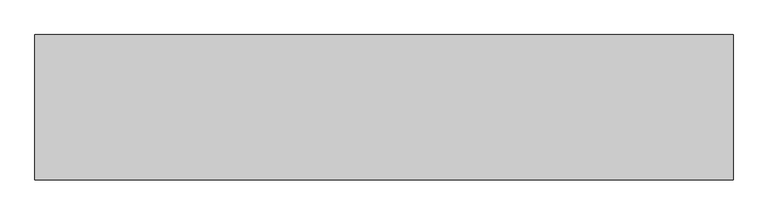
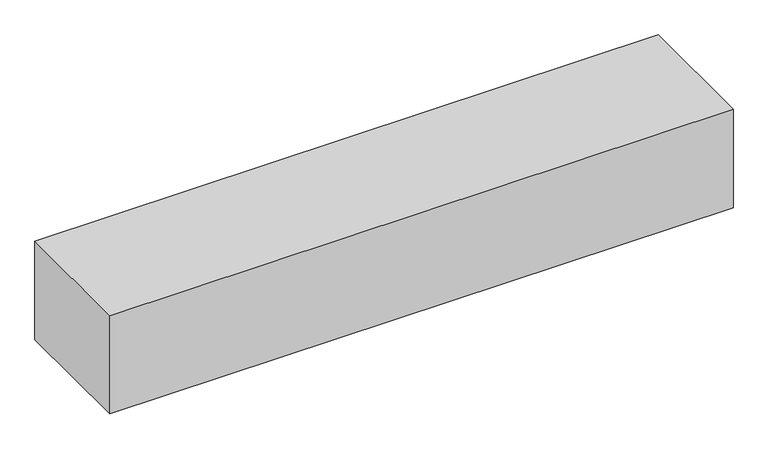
"""IFC4 building model written with IfcOpenShell, lengths in millimetres: geographic element geometry, r 低木密植 : 低木密植."""

from ifc_helpers import new_model, si_unit, origin, origin_with_axes, place, context, project, spatial, polyline, outline, extrude, source, transform, mapped, element, save


def geographic_element_98545d6c(model_context):
    return source(origin(), model_context, "Body", "SweptSolid", [
        extrude(outline(polyline([(0.0, 0.0), (0.0, 500.0), (2400.570419, 500.0), (2400.570419, 0.0), (0.0, 0.0)])), origin_with_axes(), (0.0, 0.0, 1.0), 400.0),
    ])


if __name__ == "__main__":
    model = new_model("IFC4")
    model_context = context("Model", 3, world=origin())
    ifc_project = project(units=[si_unit("LENGTHUNIT", "METRE", prefix="MILLI")], contexts=[model_context])
    site = spatial("IfcSite", under=ifc_project)
    building = spatial("IfcBuilding", under=site)
    placement = place(None, origin())
    geographic_element_shape = geographic_element_98545d6c(model_context)
    element("IfcGeographicElement", 1, ObjectType="r 低木密植 : 低木密植", at=placement, inside=building, context=model_context, shape_type="MappedRepresentation", body=[
        mapped(geographic_element_shape, transform((0.0, 0.0, 0.0), x_axis=(1.0, 0.0, 0.0), y_axis=(0.0, 1.0, 0.0), z_axis=(0.0, 0.0, 1.0))),
    ])
    save(model, "model.ifc")
